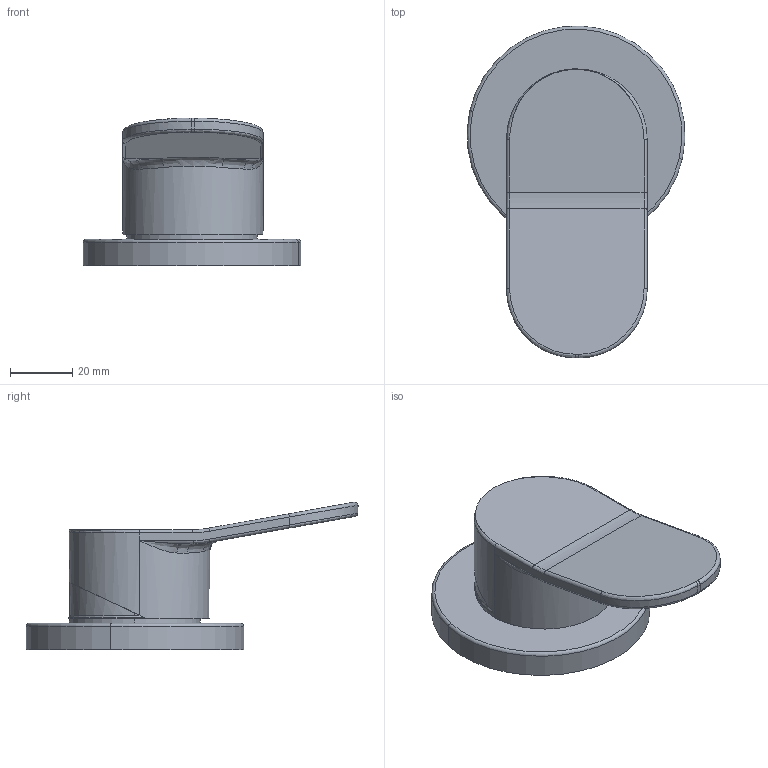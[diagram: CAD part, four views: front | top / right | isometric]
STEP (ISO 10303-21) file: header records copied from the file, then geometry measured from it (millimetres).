
FILE_DESCRIPTION (( 'STEP AP214' ), '1' );
FILE_NAME ('82211410 x architetti.STEP', '2025-01-13T16:26:22', ( '' ), ( '' ), 'SwSTEP 2.0', 'SolidWorks 2020', '' );
FILE_SCHEMA (( 'AUTOMOTIVE_DESIGN' ));
Length unit declared in the file: millimetre
Products named in the file (1): 82211410 x architetti
Bounding box: 69.71 x 106.3 x 47.31 mm (x, y, z)
Volume: 87534 mm3; surface area: 22272.9 mm2
Topology: 1 solids, 1 shells, 69 faces, 162 edges, 96 vertices
Faces by surface type: cylinder 32, bspline 16, plane 14, cone 5, torus 2
Entity records: 4093 total; most frequent: CARTESIAN_POINT 1917, ORIENTED_EDGE 320, DIRECTION 286, EDGE_CURVE 160, AXIS2_PLACEMENT_3D 116, VERTEX_POINT 96, EDGE_LOOP 72, ADVANCED_FACE 69
